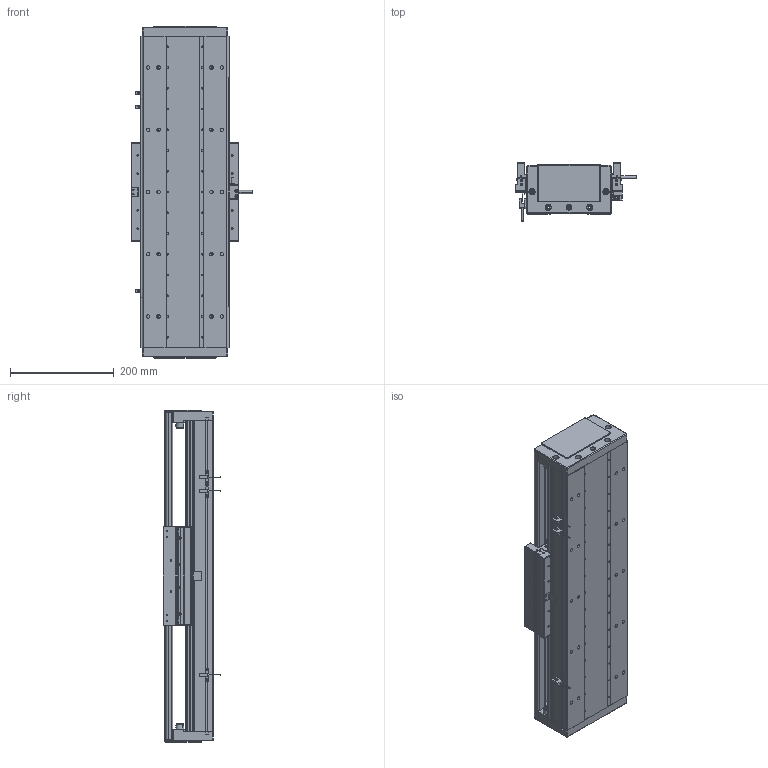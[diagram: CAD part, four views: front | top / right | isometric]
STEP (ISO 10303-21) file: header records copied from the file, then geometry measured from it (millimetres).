
FILE_DESCRIPTION (( 'STEP AP203' ), '1' );
FILE_NAME ('DA-C165-C2-T360-C010-0.2 直线电机.STEP', '2023-05-11T07:28:58', ( '微软用户' ), ( '微软中国' ), 'SwSTEP 2.0', 'SolidWorks 2019', '' );
FILE_SCHEMA (( 'CONFIG_CONTROL_DESIGN' ));
Length unit declared in the file: millimetre
Products named in the file (15): 复件 DA165-DG-H-N-00 端盖^DA-C165-C2-T-C010-0.2-N 直线电机; IU-CU165-L 菁釱絳寢; 复件 DMA-010-0.2 读数头^DA-C165-C2-T-C010-0.2-N 直线电机; 复件 DA95-HXJ-00 缓冲橡胶^DA-C165-C2-T-C010-0.2-N 直线电机; 复件 CKM02-W075-C1C2-TP-3.0 一体电机-C2^DA-C165-C2-T-C010-0.2-N 直线电机; 复件 六角薄螺母 M3^DA-C165-C2-T-C010-0.2-N 直线电机_GB_FASTENER_NUT_STNAB M3-C; 复件 DA165-GYP-00 光电感应片^DA-C165-C2-T-C010-0.2-N 直线电机; 珨极趙賑雄怢啣wf-C2; 葩璃 DA95-GT-T-00^IU-CU165-L 菁釱絳寢_T; 葩璃 CKM01-W075-TRL^DA-C165-C2-T-C010-0.2-N 眻盄萇儂; IU-CU165-L-00 菁釱_L600; 葩璃 PM-T45^DA-C165-C2-T-C010-0.2-N 眻盄萇儂; 复件 XD-U-02L 磁栅尺^DA-C165-C2-T-C010-0.2-N 直线电机_T; DA-C165-C2-T360-C010-0.2 眻盄萇儂; 复件 DA165-T-002-00 盖板^DA-C165-C2-T-C010-0.2-N 直线电机_0840-002-00
Assembly tree (28 placements, depth 3):
  DA-C165-C2-T360-C010-0.2 眻盄萇儂
    IU-CU165-L 菁釱絳寢
      IU-CU165-L-00 菁釱_L600
      葩璃 DA95-GT-T-00^IU-CU165-L 菁釱絳寢_T  x4
    复件 DA165-DG-H-N-00 端盖^DA-C165-C2-T-C010-0.2-N 直线电机  x2
    复件 DA95-HXJ-00 缓冲橡胶^DA-C165-C2-T-C010-0.2-N 直线电机  x4
    复件 DA165-T-002-00 盖板^DA-C165-C2-T-C010-0.2-N 直线电机_0840-002-00
    复件 XD-U-02L 磁栅尺^DA-C165-C2-T-C010-0.2-N 直线电机_T
    葩璃 PM-T45^DA-C165-C2-T-C010-0.2-N 眻盄萇儂  x3
    葩璃 CKM01-W075-TRL^DA-C165-C2-T-C010-0.2-N 眻盄萇儂
    复件 DA165-GYP-00 光电感应片^DA-C165-C2-T-C010-0.2-N 直线电机
    复件 DMA-010-0.2 读数头^DA-C165-C2-T-C010-0.2-N 直线电机
    复件 CKM02-W075-C1C2-TP-3.0 一体电机-C2^DA-C165-C2-T-C010-0.2-N 直线电机
    复件 六角薄螺母 M3^DA-C165-C2-T-C010-0.2-N 直线电机_GB_FASTENER_NUT_STNAB M3-C  x6
    珨极趙賑雄怢啣wf-C2
Bounding box: 233 x 111.45 x 640 mm (x, y, z)
Volume: 5483455.7 mm3; surface area: 1413640.3 mm2
Topology: 66 solids, 66 shells, 2860 faces, 7608 edges, 4737 vertices
Faces by surface type: cylinder 1351, plane 1045, cone 406, torus 54, sphere 4
Entity records: 81519 total; most frequent: CARTESIAN_POINT 17494, DIRECTION 13328, ORIENTED_EDGE 12690, EDGE_CURVE 6345, AXIS2_PLACEMENT_3D 4973, VERTEX_POINT 4073, VECTOR 3382, LINE 3382
